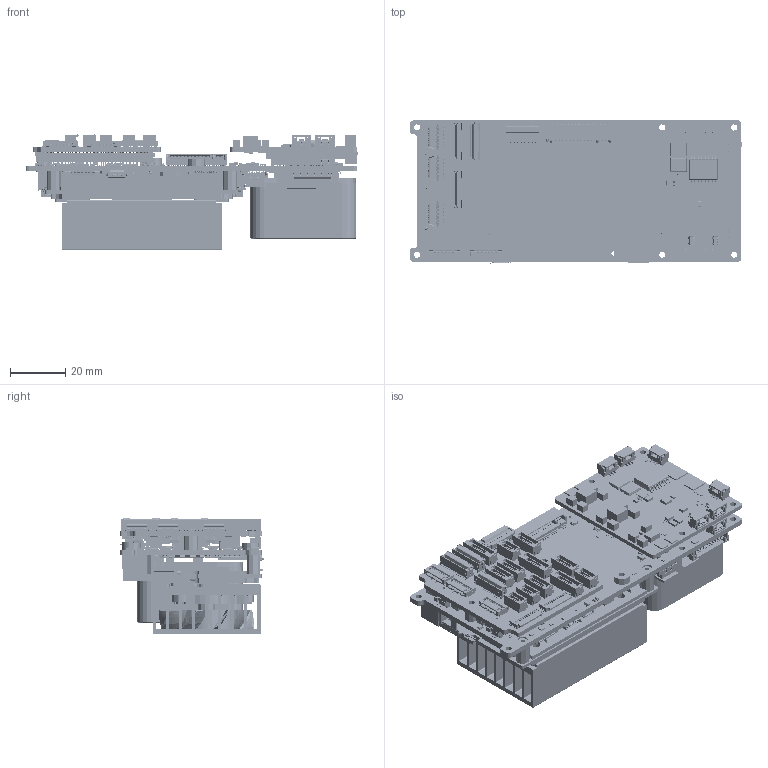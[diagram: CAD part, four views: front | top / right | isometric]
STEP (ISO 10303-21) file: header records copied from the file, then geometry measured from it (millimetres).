
FILE_DESCRIPTION(/* description */ ('','CAx-IF Rec.Pracs.---Representation and Presentation of Product Manufacturing Information (PMI)---4.0---2014-10-13'),/* implementation_level */ '2;1');
FILE_NAME(/* name */ 'Step_3d-model_DroneCore-2.step',/* time_stamp */ '2025-02-28T15:11:06+01:00',/* author */ (''),/* organization */ (''),/* preprocessor_version */ 'ST-DEVELOPER v20',/* originating_system */ 'Autodesk Translation Framework v13.20.0.188',/* authorisation */ '');
FILE_SCHEMA (('AP242_MANAGED_MODEL_BASED_3D_ENGINEERING_MIM_LF { 1 0 10303 442 1 1 4 }'));
Products named in the file (606): Step_3d-model_DroneCore-2; DCS-2_pilot_; Open CASCADE STEP translator 7.5 668; Open CASCADE STEP translator 7.5 669; Open CASCADE STEP translator 7.5 670; Open CASCADE STEP translator 7.5 671; Open CASCADE STEP translator 7.5 672; Open CASCADE STEP translator 7.5 673; Open CASCADE STEP translator 7.5 674; Open CASCADE STEP translator 7.5 675; Open CASCADE STEP translator 7.5 676; Open CASCADE STEP translator 7.5 677; Open CASCADE STEP translator 7.5 678; Open CASCADE STEP translator 7.5 679; Open CASCADE STEP translator 7.5 680; Open CASCADE STEP translator 7.5 681; Open CASCADE STEP translator 7.5 682; Open CASCADE STEP translator 7.5 683; Open CASCADE STEP translator 7.5 684; Open CASCADE STEP translator 7.5 685; Open CASCADE STEP translator 7.5 686; Open CASCADE STEP translator 7.5 687; Open CASCADE STEP translator 7.5 688; Open CASCADE STEP translator 7.5 689; Open CASCADE STEP translator 7.5 690; Open CASCADE STEP translator 7.5 691; Open CASCADE STEP translator 7.5 692; Open CASCADE STEP translator 7.5 693; Open CASCADE STEP translator 7.5 694; Open CASCADE STEP translator 7.5 695; Open CASCADE STEP translator 7.5 696; Open CASCADE STEP translator 7.5 697; Open CASCADE STEP translator 7.5 698; Open CASCADE STEP translator 7.5 699; Open CASCADE STEP translator 7.5 700; Open CASCADE STEP translator 7.5 701; Open CASCADE STEP translator 7.5 702; Open CASCADE STEP translator 7.5 703; Open CASCADE STEP translator 7.5 704; Open CASCADE STEP translator 7.5 705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
Assembly tree (607 placements, depth 9):
  Step_3d-model_DroneCore-2
    DCS-2_pilot_
      Open CASCADE STEP translator 7.5 668
      Open CASCADE STEP translator 7.5 669
      Open CASCADE STEP translator 7.5 670
      Open CASCADE STEP translator 7.5 671
      Open CASCADE STEP translator 7.5 672
      Open CASCADE STEP translator 7.5 673
      Open CASCADE STEP translator 7.5 674
      Open CASCADE STEP translator 7.5 675
      Open CASCADE STEP translator 7.5 676
      Open CASCADE STEP translator 7.5 677
      Open CASCADE STEP translator 7.5 678
      Open CASCADE STEP translator 7.5 679
      Open CASCADE STEP translator 7.5 680
      Open CASCADE STEP translator 7.5 681
      Open CASCADE STEP translator 7.5 682
      Open CASCADE STEP translator 7.5 683
      Open CASCADE STEP translator 7.5 684
      Open CASCADE STEP translator 7.5 685
      Open CASCADE STEP translator 7.5 686
      Open CASCADE STEP translator 7.5 687
      Open CASCADE STEP translator 7.5 688
      Open CASCADE STEP translator 7.5 689
      Open CASCADE STEP translator 7.5 690
      Open CASCADE STEP translator 7.5 691
      Open CASCADE STEP translator 7.5 692
      Open CASCADE STEP translator 7.5 693
      Open CASCADE STEP translator 7.5 694
      Open CASCADE STEP translator 7.5 695
      Open CASCADE STEP translator 7.5 696
      Open CASCADE STEP translator 7.5 697
      Open CASCADE STEP translator 7.5 698
      Open CASCADE STEP translator 7.5 699
      Open CASCADE STEP translator 7.5 700
      Open CASCADE STEP translator 7.5 701
      Open CASCADE STEP translator 7.5 702
      Open CASCADE STEP translator 7.5 703
      Open CASCADE STEP translator 7.5 704
      Open CASCADE STEP translator 7.5 705
      Open CASCADE STEP translator 7.5 706
      Open CASCADE STEP translator 7.5 707
      Open CASCADE STEP translator 7.5 708
      Open CASCADE STEP translator 7.5 709
      Open CASCADE STEP translator 7.5 710
      Open CASCADE STEP translator 7.5 711
      Open CASCADE STEP translator 7.5 712
      Open CASCADE STEP translator 7.5 713
      Open CASCADE STEP translator 7.5 714
      Open CASCADE STEP translator 7.5 715
      Open CASCADE STEP translator 7.5 716
      Open CASCADE STEP translator 7.5 717
      Open CASCADE STEP translator 7.5 718
      Open CASCADE STEP translator 7.5 719
      Open CASCADE STEP translator 7.5 720
      Open CASCADE STEP translator 7.5 721
      Open CASCADE STEP translator 7.5 722
      Open CASCADE STEP translator 7.5 723
      Open CASCADE STEP translator 7.5 724
      Open CASCADE STEP translator 7.5 725
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Bounding box: 119.84 x 51.74 x 41.85 mm (x, y, z)
Volume: 71244.1 mm3; surface area: 98876.1 mm2
Topology: 1500 solids, 1504 shells, 58838 faces, 161478 edges, 105978 vertices
Faces by surface type: plane 46051, cylinder 10579, bspline 1518, sphere 484, torus 112, cone 94
Full cylindrical faces by diameter (mm): 0.052 x1, 0.069 x1, 0.104 x15, 0.15 x5, 0.156 x7, 0.2 x12, 0.25 x6, 0.3 x21, 0.375 x6, 0.4 x5, 0.5 x13, 0.6 x8, 0.7 x4, 0.75 x1, 0.8 x12, 0.875 x1, 0.9 x1, 1 x9, 1.1 x4, 1.15 x2, 1.2 x2, 1.25 x5, 1.45 x1, 1.575 x2, 1.6 x6, 1.65 x3, 1.75 x3, 1.8 x6, 1.96 x1, 2 x4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
Entity records: 1978609 total; most frequent: CARTESIAN_POINT 451816, ORIENTED_EDGE 321564, DIRECTION 297258, EDGE_CURVE 160782, LINE 135806, VECTOR 135806, VERTEX_POINT 105902, AXIS2_PLACEMENT_3D 80726
